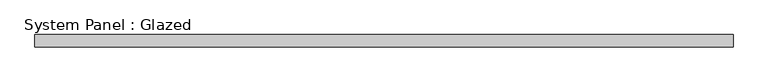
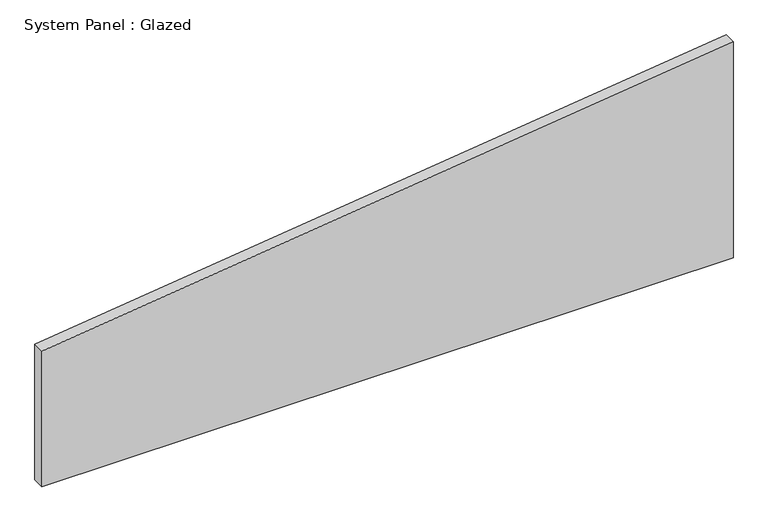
"""IFC4 building model written with IfcOpenShell, lengths in millimetres: plate geometry, System Panel : Glazed."""

import ifcopenshell
import ifcopenshell.guid

model = None  # the IFC model being written
_history = None  # IfcOwnerHistory: only IFC2X3 demands one
_inside = {}  # id of a spatial element -> (the spatial element, [elements in it])
_under = {}  # id of a project, library or spatial element -> (it, [spatial elements below it])
_declared = {}  # id of a project -> (the project, [libraries it declares])
_typed = {}  # id of a type object -> (the type object, [elements of that type])
_made_of = {}  # id of a material, layer set ... -> (it, [elements and type objects made of it])


def new_model(schema):
    """Start an empty IFC model of exactly this schema.

    Asked for "IFC4X3", IfcOpenShell would pick the latest addendum, in which some entities
    have other attributes; the version numbers below select the first issue.
    IFC2X3 requires an IfcOwnerHistory on every rooted entity: one is made here for all.
    """
    global model, _history
    if schema == "IFC4X3":
        model = ifcopenshell.file(schema_version=(4, 3, 0, 0))
    else:
        model = ifcopenshell.file(schema=schema)
    _inside.clear()
    _under.clear()
    _declared.clear()
    _typed.clear()
    _made_of.clear()
    _history = None
    if model.schema == "IFC2X3":
        org = make("IfcOrganization", Name="unknown")
        user = make(
            "IfcPersonAndOrganization",
            ThePerson=make("IfcPerson", FamilyName="unknown"),
            TheOrganization=org,
        )
        app = make(
            "IfcApplication",
            ApplicationDeveloper=org,
            Version="unknown",
            ApplicationFullName="unknown",
            ApplicationIdentifier="unknown",
        )
        _history = make(
            "IfcOwnerHistory",
            OwningUser=user,
            OwningApplication=app,
            ChangeAction="ADDED",
            CreationDate=0,
        )
    return model


def make(cls, **values):
    """One entity of the class cls with the attributes given. An attribute that is None is left unset."""
    return model.create_entity(
        cls, **{name: value for name, value in values.items() if value is not None}
    )


def rooted(cls, **values):
    """An entity with a GlobalId (a new one), such as an element, a storey or a relation."""
    return make(cls, GlobalId=ifcopenshell.guid.new(), OwnerHistory=_history, **values)


def si_unit(unit_type, name, prefix=None):
    """IfcSIUnit, for example si_unit("LENGTHUNIT", "METRE", prefix="MILLI")."""
    return make("IfcSIUnit", UnitType=unit_type, Prefix=prefix, Name=name)


def assignment(units):
    """IfcUnitAssignment: the units of a project."""
    return None if units is None else make("IfcUnitAssignment", Units=units)


def point(xyz):
    """IfcCartesianPoint."""
    return None if xyz is None else make("IfcCartesianPoint", Coordinates=xyz)


def direction(xyz):
    """IfcDirection."""
    return None if xyz is None else make("IfcDirection", DirectionRatios=xyz)


def frame(location, z_axis=None, x_axis=None):
    """IfcAxis2Placement3D, a coordinate frame: its origin and axes. An axis left out is left unset."""
    return make(
        "IfcAxis2Placement3D",
        Location=point(location),
        Axis=direction(z_axis),
        RefDirection=direction(x_axis),
    )


def origin():
    """The frame at (0, 0, 0) with its axes left unset."""
    return frame((0.0, 0.0, 0.0))


def place(relative_to, where):
    """IfcLocalPlacement: puts the frame where relative to a parent placement (None: the world)."""
    return make(
        "IfcLocalPlacement", PlacementRelTo=relative_to, RelativePlacement=where
    )


def context(
    kind, dimensions, precision=None, world=None, true_north=None, identifier=None
):
    """IfcGeometricRepresentationContext, for example the 3D "Model" context."""
    return make(
        "IfcGeometricRepresentationContext",
        ContextIdentifier=identifier,
        ContextType=kind,
        CoordinateSpaceDimension=dimensions,
        Precision=precision,
        WorldCoordinateSystem=world,
        TrueNorth=true_north,
    )


def project(units=None, contexts=None):
    """IfcProject with its units and contexts."""
    return rooted(
        "IfcProject",
        Name="project",
        RepresentationContexts=contexts,
        UnitsInContext=assignment(units),
    )


def spatial(cls, under=None, at=None, **own):
    """A site, building, storey or space (cls), placed at a placement, below another one or the project."""
    s = rooted(cls, ObjectPlacement=at, **own)
    if under is not None:
        _under.setdefault(under.id(), (under, []))[1].append(s)
    return s


def polyline(points):
    """IfcPolyline through the points."""
    return make("IfcPolyline", Points=[point(p) for p in points])


def outline(outer, holes=None, kind="AREA"):
    """IfcArbitraryClosedProfileDef: a profile drawn as a closed curve; with holes, ...WithVoids."""
    if holes is None:
        return make("IfcArbitraryClosedProfileDef", ProfileType=kind, OuterCurve=outer)
    return make(
        "IfcArbitraryProfileDefWithVoids",
        ProfileType=kind,
        OuterCurve=outer,
        InnerCurves=holes,
    )


def extrude(swept, where, along, depth):
    """IfcExtrudedAreaSolid: the profile swept, set in the frame where, extruded along a direction by depth."""
    return make(
        "IfcExtrudedAreaSolid",
        SweptArea=swept,
        Position=where,
        ExtrudedDirection=direction(along),
        Depth=depth,
    )


def shape(context_of_items, identifier, shape_type, items):
    """IfcShapeRepresentation: the items that make up one representation, for example the "Body"."""
    return make(
        "IfcShapeRepresentation",
        ContextOfItems=context_of_items,
        RepresentationIdentifier=identifier,
        RepresentationType=shape_type,
        Items=items,
    )


def source(mapping_origin, context_of_items, identifier, shape_type, items):
    """IfcRepresentationMap: a shape defined once, which mapped items show again and again."""
    return make(
        "IfcRepresentationMap",
        MappingOrigin=mapping_origin,
        MappedRepresentation=shape(context_of_items, identifier, shape_type, items),
    )


def transform(
    local_origin,
    x_axis=None,
    y_axis=None,
    z_axis=None,
    scale=None,
    scale2=None,
    scale3=None,
    uniform=True,
):
    """IfcCartesianTransformationOperator3D, or its non-uniform kind. x_axis, y_axis, z_axis: its Axis1, 2, 3."""
    if uniform:
        return make(
            "IfcCartesianTransformationOperator3D",
            Axis1=direction(x_axis),
            Axis2=direction(y_axis),
            LocalOrigin=point(local_origin),
            Scale=scale,
            Axis3=direction(z_axis),
        )
    return make(
        "IfcCartesianTransformationOperator3DnonUniform",
        Axis1=direction(x_axis),
        Axis2=direction(y_axis),
        LocalOrigin=point(local_origin),
        Scale=scale,
        Axis3=direction(z_axis),
        Scale2=scale2,
        Scale3=scale3,
    )


def mapped(mapping_source, mapping_target):
    """IfcMappedItem: shows the shape of a source again, moved by a transform."""
    return make(
        "IfcMappedItem", MappingSource=mapping_source, MappingTarget=mapping_target
    )


def made_of(thing, what):
    """Note that an element or type object is made of a material, layer set ...; save() writes the relation."""
    if what is not None:
        _made_of.setdefault(what.id(), (what, []))[1].append(thing)
    return thing


def element(
    cls,
    number,
    at=None,
    inside=None,
    cuts=None,
    type_object=None,
    material=None,
    context=None,
    identifier="Body",
    shape_type=None,
    held_by="IfcProductDefinitionShape",
    body=None,
    shapes=None,
    **own,
):
    """One element of the class cls, such as IfcWall. Its Tag is "e" and its number.

    at: its placement. inside: the storey or other place that contains it. cuts: it is an
    opening in that element (IfcRelVoidsElement). A single representation is given by context,
    identifier, shape_type and body (its items); several are given by shapes. held_by: the class
    of the entity that holds the representations. save() writes the other relations.
    """
    e = rooted(cls, Tag="e%d" % number, ObjectPlacement=at, **own)
    if body is not None:
        shapes = [shape(context, identifier, shape_type, body)]
    if shapes is not None:
        e.Representation = make(held_by, Representations=shapes)
    if inside is not None:
        _inside.setdefault(inside.id(), (inside, []))[1].append(e)
    if cuts is not None:
        rooted(
            "IfcRelVoidsElement", RelatingBuildingElement=cuts, RelatedOpeningElement=e
        )
    if type_object is not None:
        _typed.setdefault(type_object.id(), (type_object, []))[1].append(e)
    return made_of(e, material)


def aggregate(whole, parts):
    """IfcRelAggregates: a whole, such as a stair, and the parts it consists of."""
    return rooted("IfcRelAggregates", RelatingObject=whole, RelatedObjects=parts)


def save(model, path):
    """Write the relations noted so far, then the file.

    IfcRelAggregates (storeys below a building ...), IfcRelContainedInSpatialStructure (elements
    in a storey), IfcRelDefinesByType, IfcRelAssociatesMaterial and IfcRelDeclares: one each for
    every whole, place, type object, material and project.
    """
    for whole, parts in _under.values():
        aggregate(whole, parts)
    for where, things in _inside.values():
        rooted(
            "IfcRelContainedInSpatialStructure",
            RelatedElements=things,
            RelatingStructure=where,
        )
    for kind, things in _typed.values():
        rooted("IfcRelDefinesByType", RelatedObjects=things, RelatingType=kind)
    for what, things in _made_of.values():
        rooted("IfcRelAssociatesMaterial", RelatedObjects=things, RelatingMaterial=what)
    for by, libraries in _declared.values():
        rooted("IfcRelDeclares", RelatingContext=by, RelatedDefinitions=libraries)
    model.write(path)


def system_panel_glazed_bb67df89(model_context):
    return source(origin(), model_context, "Body", "SweptSolid", [
        extrude(outline(polyline([(0.0, -714.463158), (0.0, 714.463158), (472.3691838, 714.463158), (296.9190935, -714.463158), (0.0, -714.463158)])), frame((0.0, 24.5, 0.0), z_axis=(0.0, 1.0, 0.0), x_axis=(0.0, 0.0, 1.0)), (0.0, 0.0, 1.0), 25.0),
    ])


if __name__ == "__main__":
    model = new_model("IFC4")
    model_context = context("Model", 3, world=origin())
    ifc_project = project(units=[si_unit("LENGTHUNIT", "METRE", prefix="MILLI")], contexts=[model_context])
    site = spatial("IfcSite", under=ifc_project)
    building = spatial("IfcBuilding", under=site)
    placement = place(None, origin())
    system_panel_glazed_shape = system_panel_glazed_bb67df89(model_context)
    element("IfcPlate", 1, ObjectType="System Panel : Glazed", at=placement, inside=building, context=model_context, shape_type="MappedRepresentation", body=[
        mapped(system_panel_glazed_shape, transform((0.0, 0.0, 0.0), x_axis=(1.0, 0.0, 0.0), y_axis=(0.0, 1.0, 0.0), z_axis=(0.0, 0.0, 1.0))),
    ])
    save(model, "model.ifc")
